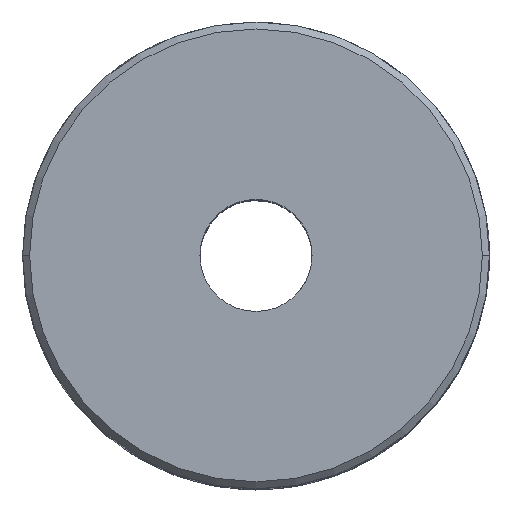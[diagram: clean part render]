
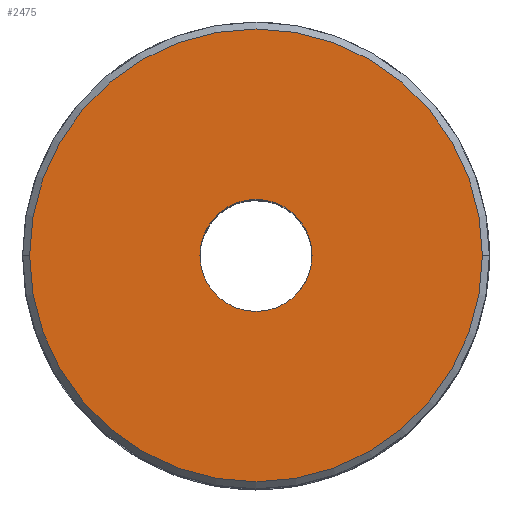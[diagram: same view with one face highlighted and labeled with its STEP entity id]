
A CAD part, top view. The second image highlights one B-rep face of the part: STEP entity #2475.
In plain terms, the highlighted planar face has unit normal (0, 0, 1).
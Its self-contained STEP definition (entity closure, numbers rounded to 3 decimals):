
#175 = EDGE_CURVE ( 'NONE', #2375, #2377, #640, .T. ) ;
#640 = CIRCLE ( 'NONE', #697, 24.25 ) ;
#694 = DIRECTION ( 'NONE',  ( 1., 0., 0. ) ) ;
#695 = DIRECTION ( 'NONE',  ( 0., 0., 1. ) ) ;
#696 = CARTESIAN_POINT ( 'NONE',  ( 0., 0., 71. ) ) ;
#697 = AXIS2_PLACEMENT_3D ( 'NONE', #696, #695, #694 ) ;
#1240 = CARTESIAN_POINT ( 'NONE',  ( -6., 0., 71. ) ) ;
#1263 = DIRECTION ( 'NONE',  ( 1., 0., 0. ) ) ;
#1264 = DIRECTION ( 'NONE',  ( 0., 0., 1. ) ) ;
#1265 = CARTESIAN_POINT ( 'NONE',  ( 0., 0., 71. ) ) ;
#1266 = AXIS2_PLACEMENT_3D ( 'NONE', #1265, #1264, #1263 ) ;
#1267 = CIRCLE ( 'NONE', #1266, 6. ) ;
#1268 = CARTESIAN_POINT ( 'NONE',  ( 6., 0., 71. ) ) ;
#1332 = CARTESIAN_POINT ( 'NONE',  ( -24.25, 0., 71. ) ) ;
#1333 = CARTESIAN_POINT ( 'NONE',  ( 24.25, 0., 71. ) ) ;
#1504 = AXIS2_PLACEMENT_3D ( 'NONE', #1510, #1564, #1563 ) ;
#1505 = CIRCLE ( 'NONE', #1504, 24.25 ) ;
#1510 = CARTESIAN_POINT ( 'NONE',  ( 0., 0., 71. ) ) ;
#1541 = DIRECTION ( 'NONE',  ( 1., 0., 0. ) ) ;
#1542 = DIRECTION ( 'NONE',  ( 0., 0., 1. ) ) ;
#1543 = CARTESIAN_POINT ( 'NONE',  ( 0., 0., 71. ) ) ;
#1544 = AXIS2_PLACEMENT_3D ( 'NONE', #1543, #1542, #1541 ) ;
#1545 = CIRCLE ( 'NONE', #1544, 6. ) ;
#1556 = DIRECTION ( 'NONE',  ( 1., 0., 0. ) ) ;
#1557 = DIRECTION ( 'NONE',  ( 0., 0., 1. ) ) ;
#1558 = CARTESIAN_POINT ( 'NONE',  ( 0., 0., 71. ) ) ;
#1559 = AXIS2_PLACEMENT_3D ( 'NONE', #1558, #1557, #1556 ) ;
#1560 = PLANE ( 'NONE',  #1559 ) ;
#1561 = FACE_BOUND ( 'NONE', #2472, .T. ) ;
#1562 = FACE_OUTER_BOUND ( 'NONE', #2481, .T. ) ;
#1563 = DIRECTION ( 'NONE',  ( 1., 0., 0. ) ) ;
#1564 = DIRECTION ( 'NONE',  ( 0., 0., 1. ) ) ;
#2339 = VERTEX_POINT ( 'NONE', #1240 ) ;
#2344 = VERTEX_POINT ( 'NONE', #1268 ) ;
#2345 = EDGE_CURVE ( 'NONE', #2339, #2344, #1267, .T. ) ;
#2375 = VERTEX_POINT ( 'NONE', #1333 ) ;
#2377 = VERTEX_POINT ( 'NONE', #1332 ) ;
#2470 = ORIENTED_EDGE ( 'NONE', *, *, #2345, .F. ) ;
#2471 = ORIENTED_EDGE ( 'NONE', *, *, #2485, .F. ) ;
#2472 = EDGE_LOOP ( 'NONE', ( #2471, #2470 ) ) ;
#2473 = EDGE_CURVE ( 'NONE', #2377, #2375, #1505, .T. ) ;
#2474 = ORIENTED_EDGE ( 'NONE', *, *, #175, .T. ) ;
#2475 = ADVANCED_FACE ( 'NONE', ( #1562, #1561 ), #1560, .T. ) ;
#2481 = EDGE_LOOP ( 'NONE', ( #2484, #2474 ) ) ;
#2484 = ORIENTED_EDGE ( 'NONE', *, *, #2473, .T. ) ;
#2485 = EDGE_CURVE ( 'NONE', #2344, #2339, #1545, .T. ) ;
